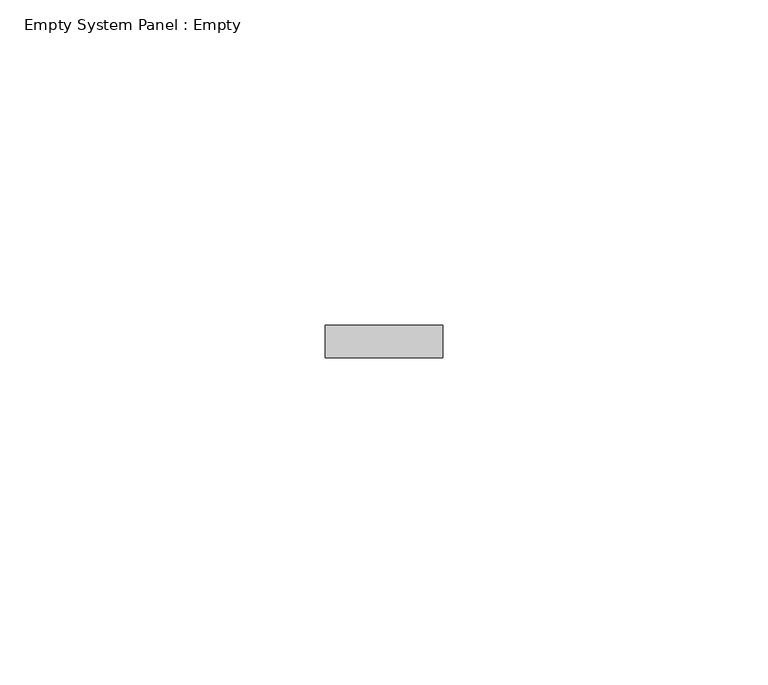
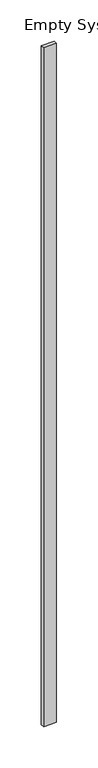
"""IFC4 building model written with IfcOpenShell, lengths in millimetres: plate geometry, Empty System Panel : Empty."""

from ifc_helpers import new_model, si_unit, origin, origin_with_axes, place, context, project, spatial, polyline, outline, extrude, source, transform, mapped, element, save


def empty_system_panel_empty_abc43946(model_context):
    return source(origin(), model_context, "Body", "SweptSolid", [
        extrude(outline(polyline([(8.9999998, 97.5), (-8.9999998, 97.5), (-8.9999998, 102.5), (8.9999998, 102.5), (8.9999998, 97.5)])), origin_with_axes(), (0.0, 0.0, 1.0), 1000.0),
    ])


if __name__ == "__main__":
    model = new_model("IFC4")
    model_context = context("Model", 3, world=origin())
    ifc_project = project(units=[si_unit("LENGTHUNIT", "METRE", prefix="MILLI")], contexts=[model_context])
    site = spatial("IfcSite", under=ifc_project)
    building = spatial("IfcBuilding", under=site)
    placement = place(None, origin())
    empty_system_panel_empty_shape = empty_system_panel_empty_abc43946(model_context)
    element("IfcPlate", 1, ObjectType="Empty System Panel : Empty", at=placement, inside=building, context=model_context, shape_type="MappedRepresentation", body=[
        mapped(empty_system_panel_empty_shape, transform((0.0, 0.0, 0.0), x_axis=(1.0, 0.0, 0.0), y_axis=(0.0, 1.0, 0.0), z_axis=(0.0, 0.0, 1.0))),
    ])
    save(model, "model.ifc")
